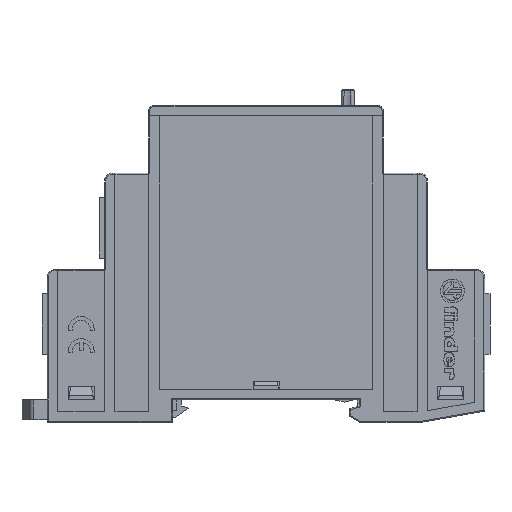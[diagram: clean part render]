
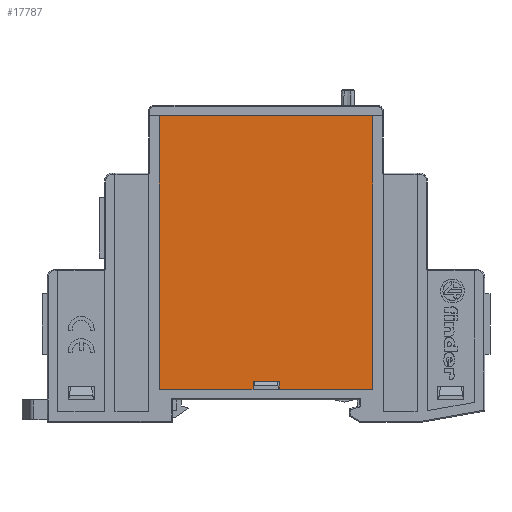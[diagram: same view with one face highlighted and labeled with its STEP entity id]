
A CAD part, left-side view. The second image highlights one B-rep face of the part: STEP entity #17787.
In plain terms, the highlighted planar face has unit normal (-1, 0, 0).
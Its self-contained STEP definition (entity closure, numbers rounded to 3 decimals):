
#4714=ORIENTED_EDGE('',*,*,#8171,.F.);
#4715=ORIENTED_EDGE('',*,*,#8266,.T.);
#4716=ORIENTED_EDGE('',*,*,#8267,.T.);
#4717=ORIENTED_EDGE('',*,*,#8268,.F.);
#4718=ORIENTED_EDGE('',*,*,#8174,.F.);
#4719=ORIENTED_EDGE('',*,*,#8264,.F.);
#4720=ORIENTED_EDGE('',*,*,#8269,.F.);
#4721=ORIENTED_EDGE('',*,*,#8270,.F.);
#8171=EDGE_CURVE('',#10390,#10391,#12042,.T.);
#8174=EDGE_CURVE('',#10392,#10394,#12045,.T.);
#8264=EDGE_CURVE('',#10458,#10392,#12118,.T.);
#8266=EDGE_CURVE('',#10390,#10460,#12120,.T.);
#8267=EDGE_CURVE('',#10460,#10461,#12121,.T.);
#8268=EDGE_CURVE('',#10394,#10461,#12122,.T.);
#8269=EDGE_CURVE('',#10462,#10458,#12123,.T.);
#8270=EDGE_CURVE('',#10391,#10462,#12124,.T.);
#10390=VERTEX_POINT('',#31322);
#10391=VERTEX_POINT('',#31324);
#10392=VERTEX_POINT('',#31328);
#10394=VERTEX_POINT('',#31331);
#10458=VERTEX_POINT('',#31558);
#10460=VERTEX_POINT('',#31564);
#10461=VERTEX_POINT('',#31566);
#10462=VERTEX_POINT('',#31569);
#12042=LINE('',#31323,#13861);
#12045=LINE('',#31330,#13864);
#12118=LINE('',#31560,#13937);
#12120=LINE('',#31563,#13939);
#12121=LINE('',#31565,#13940);
#12122=LINE('',#31567,#13941);
#12123=LINE('',#31568,#13942);
#12124=LINE('',#31570,#13943);
#13861=VECTOR('',#22965,1000.);
#13864=VECTOR('',#22970,1000.);
#13937=VECTOR('',#23129,1000.);
#13939=VECTOR('',#23133,1000.);
#13940=VECTOR('',#23134,1000.);
#13941=VECTOR('',#23135,1000.);
#13942=VECTOR('',#23136,1000.);
#13943=VECTOR('',#23137,1000.);
#15232=EDGE_LOOP('',(#4714,#4715,#4716,#4717,#4718,#4719,#4720,#4721));
#16273=FACE_BOUND('',#15232,.T.);
#16926=PLANE('',#19439);
#17787=ADVANCED_FACE('',(#16273),#16926,.T.);
#19439=AXIS2_PLACEMENT_3D('',#31562,#23131,#23132);
#22965=DIRECTION('',(0.,1.,0.));
#22970=DIRECTION('',(0.,1.,0.));
#23129=DIRECTION('',(0.,0.,-1.));
#23131=DIRECTION('',(-1.,0.,0.));
#23132=DIRECTION('',(0.,0.,1.));
#23133=DIRECTION('',(0.,0.,1.));
#23134=DIRECTION('',(0.,-1.,0.));
#23135=DIRECTION('',(0.,0.,1.));
#23136=DIRECTION('',(0.,-1.,0.));
#23137=DIRECTION('',(0.,0.,1.));
#31322=CARTESIAN_POINT('',(-25.203,55.274,-21.5));
#31323=CARTESIAN_POINT('',(-25.203,55.274,-21.5));
#31324=CARTESIAN_POINT('',(-25.203,73.274,-21.5));
#31328=CARTESIAN_POINT('',(-25.203,32.274,-21.5));
#31330=CARTESIAN_POINT('',(-25.203,32.274,-21.5));
#31331=CARTESIAN_POINT('',(-25.203,50.274,-21.5));
#31558=CARTESIAN_POINT('',(-25.203,32.274,31.));
#31560=CARTESIAN_POINT('',(-25.203,32.274,31.));
#31562=CARTESIAN_POINT('',(-25.203,10.773,-27.801));
#31563=CARTESIAN_POINT('',(-25.203,55.274,-21.5));
#31564=CARTESIAN_POINT('',(-25.203,55.274,-20.));
#31565=CARTESIAN_POINT('',(-25.203,55.274,-20.));
#31566=CARTESIAN_POINT('',(-25.203,50.274,-20.));
#31567=CARTESIAN_POINT('',(-25.203,50.274,-21.5));
#31568=CARTESIAN_POINT('',(-25.203,73.274,31.));
#31569=CARTESIAN_POINT('',(-25.203,73.274,31.));
#31570=CARTESIAN_POINT('',(-25.203,73.274,-21.5));
